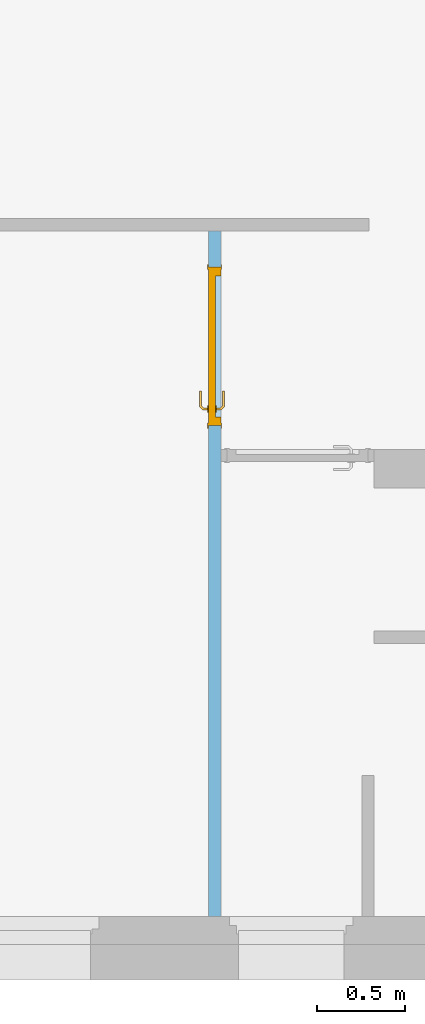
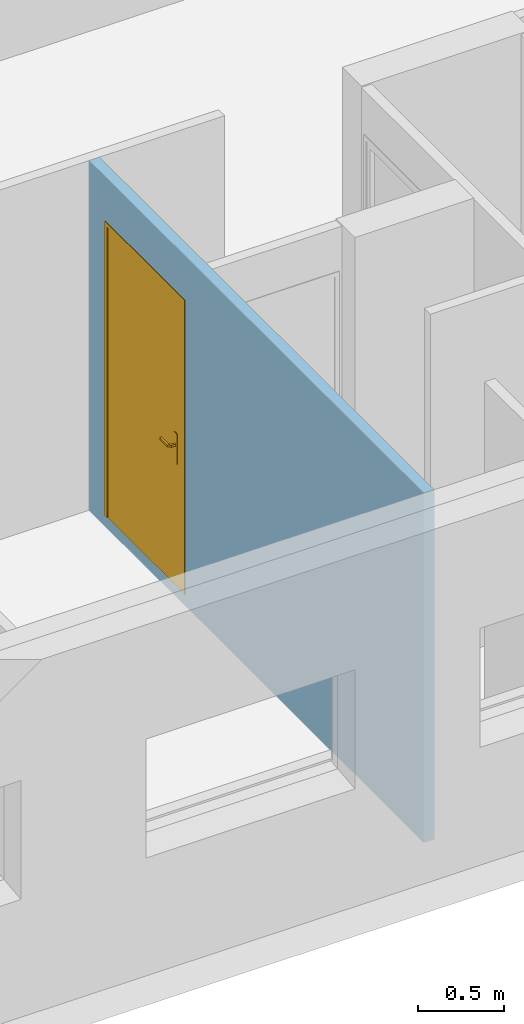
"""IFC2X3 building model written with IfcOpenShell, lengths in centimetres."""

from ifc_helpers import new_model, entity, si_unit, converted_unit, derived_unit, direction, frame, frame_2d, origin, place, context, subcontext, project, spatial, rectangle, extrude, faceted_brep, source, transform, mapped, material, material_list, layer, layer_set, layer_usage, type_object, type_shapes, element, fill, save


model = new_model("IFC2X3")

# Units and contexts
model_context = context("Model", 3, precision=0.001, world=origin(), true_north=direction((6.12303176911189e-17, 1.0)))
body_context = subcontext(model_context, "Body", "Model", "MODEL_VIEW")
ifc_project = project(units=[si_unit("LENGTHUNIT", "METRE", prefix="CENTI"), si_unit("AREAUNIT", "SQUARE_METRE"), si_unit("VOLUMEUNIT", "CUBIC_METRE"), converted_unit("PLANEANGLEUNIT", "DEGREE", entity("IfcRatioMeasure", 0.0174532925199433), si_unit("PLANEANGLEUNIT", "RADIAN"), dimensions=[0, 0, 0, 0, 0, 0, 0]), si_unit("MASSUNIT", "GRAM", prefix="KILO"), derived_unit("MASSDENSITYUNIT", [(si_unit("MASSUNIT", "GRAM", prefix="KILO"), 1), (si_unit("LENGTHUNIT", "METRE"), -3)]), derived_unit("MOMENTOFINERTIAUNIT", [(si_unit("LENGTHUNIT", "METRE"), 4)]), si_unit("TIMEUNIT", "SECOND"), si_unit("FREQUENCYUNIT", "HERTZ"), si_unit("THERMODYNAMICTEMPERATUREUNIT", "DEGREE_CELSIUS"), derived_unit("THERMALTRANSMITTANCEUNIT", [(si_unit("MASSUNIT", "GRAM", prefix="KILO"), 1), (si_unit("THERMODYNAMICTEMPERATUREUNIT", "KELVIN"), -1), (si_unit("TIMEUNIT", "SECOND"), -3)]), derived_unit("VOLUMETRICFLOWRATEUNIT", [(si_unit("LENGTHUNIT", "METRE"), 3), (si_unit("TIMEUNIT", "SECOND"), -1)]), si_unit("ELECTRICCURRENTUNIT", "AMPERE"), si_unit("ELECTRICVOLTAGEUNIT", "VOLT"), si_unit("POWERUNIT", "WATT"), si_unit("FORCEUNIT", "NEWTON", prefix="KILO"), si_unit("ILLUMINANCEUNIT", "LUX"), si_unit("LUMINOUSFLUXUNIT", "LUMEN"), si_unit("LUMINOUSINTENSITYUNIT", "CANDELA"), derived_unit("USERDEFINED", [(si_unit("MASSUNIT", "GRAM", prefix="KILO"), -1), (si_unit("LENGTHUNIT", "METRE"), -2), (si_unit("TIMEUNIT", "SECOND"), 3), (si_unit("LUMINOUSFLUXUNIT", "LUMEN"), 1)]), derived_unit("LINEARVELOCITYUNIT", [(si_unit("LENGTHUNIT", "METRE"), 1), (si_unit("TIMEUNIT", "SECOND"), -1)]), si_unit("PRESSUREUNIT", "PASCAL"), derived_unit("USERDEFINED", [(si_unit("LENGTHUNIT", "METRE"), -2), (si_unit("MASSUNIT", "GRAM", prefix="KILO"), 1), (si_unit("TIMEUNIT", "SECOND"), -2)]), derived_unit("LINEARFORCEUNIT", [(si_unit("MASSUNIT", "GRAM", prefix="KILO"), 1), (si_unit("LENGTHUNIT", "METRE"), 1), (si_unit("TIMEUNIT", "SECOND"), -2), (si_unit("LENGTHUNIT", "METRE"), -1)]), derived_unit("PLANARFORCEUNIT", [(si_unit("MASSUNIT", "GRAM", prefix="KILO"), 1), (si_unit("LENGTHUNIT", "METRE"), 1), (si_unit("TIMEUNIT", "SECOND"), -2), (si_unit("LENGTHUNIT", "METRE"), -2)])], contexts=[model_context])

# Site, building, storey
site_placement = place(None, origin())
site = spatial("IfcSite", under=ifc_project, at=site_placement, Name="Surface", CompositionType="ELEMENT")
building_placement = place(site_placement, origin())
building = spatial("IfcBuilding", under=site, at=building_placement, CompositionType="ELEMENT")
storey_1_placement = place(building_placement, frame((0.0, 0.0, -8.0)))
storey_1 = spatial("IfcBuildingStorey", under=building, at=storey_1_placement, Name="-0.08_Dessus plancher", CompositionType="ELEMENT", Elevation=-8.0)

# Wall, openings
ifc_material_1 = material(Name="Mur par défaut")
ifc_layer = layer(ifc_material_1, 7.0)
ifc_layer_set = layer_set([ifc_layer], Name="Mur de base:Cloison 7cm")
ifc_layer_usage = layer_usage(ifc_layer_set, "AXIS2", "NEGATIVE", 3.5)
wall_type = type_object("IfcWallType", Name="Mur de base:Cloison 7cm", PredefinedType="STANDARD", material=ifc_layer_set)
wall_placement = place(storey_1_placement, frame((-1165.67726031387, -123.007682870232, 0.0), z_axis=(0.0, 0.0, 1.0), x_axis=(0.0, 1.0, 0.0)))
wall = element("IfcWallStandardCase", 1, at=wall_placement, inside=storey_1, type_object=wall_type, material=ifc_layer_usage, Name="Mur de base:Cloison 7cm", ObjectType="Mur de base:Cloison 7cm", context=body_context, shape_type="SweptSolid", body=[
    extrude(rectangle(XDim=388.999999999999, YDim=7.00000000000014, at=frame_2d((194.5, -1.19904086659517e-14), x_axis=(-1.0, 0.0))), origin(), (0.0, 0.0, 1.0), 248.0),
])
opening_1_placement = place(wall_placement, frame((123.007682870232, -1165.67726031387, 8.0), z_axis=(0.0, 0.0, 1.0), x_axis=(0.0, -1.0, 0.0)))
element("IfcOpeningElement", 2, at=opening_1_placement, cuts=wall, Name="Mur de base:Cloison 7cm", ObjectType="Opening", context=body_context, shape_type="SweptSolid", body=[
    extrude(rectangle(XDim=207.5, YDim=90.0, at=frame_2d((1.4210854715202e-14, 0.0), x_axis=(0.0, 1.0))), frame((-1016.77726031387, 200.492317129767, 103.75), z_axis=(-1.0, 0.0, 0.0), x_axis=(0.0, -1.0, 0.0)), (0.0, 0.0, 1.0), 304.8),
])
opening_2_placement = place(wall_placement, frame((278.499999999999, -3.50000000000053, 8.0)))
opening_2 = element("IfcOpeningElement", 3, at=opening_2_placement, cuts=wall, Name="Int. Simple:PP (0.83m x 2.04m):1", ObjectType="Opening", context=body_context, shape_type="SweptSolid", body=[
    extrude(rectangle(XDim=207.5, YDim=90.0, at=frame_2d((103.75, 45.0), x_axis=(1.0, 0.0))), frame((0.0, 0.0, 0.0), z_axis=(0.0, 1.0, 0.0), x_axis=(0.0, 0.0, 1.0)), (0.0, 0.0, 1.0), 7.0),
])

# Storey
storey_2_placement = place(building_placement, origin())
storey_2 = spatial("IfcBuildingStorey", under=building, at=storey_2_placement, Name="1_Rez-de-chaussée", CompositionType="ELEMENT", Elevation=-7.93413063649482e-11)

# Door
ifc_material_2 = material(Name="Finition Peinture - Blanc satiné")
ifc_material_3 = material(Name="Bois - Panneau de porte")
ifc_material_4 = material(Name="Bois - Cadre de porte")
ifc_material_list_1 = material_list([ifc_material_2, ifc_material_3, ifc_material_4])
ifc_material_list_2 = material_list([ifc_material_2, ifc_material_4, ifc_material_3])
door_style = type_object("IfcDoorStyle", Name="Int. Simple:PP (0.83m x 2.04m)", ConstructionType="NOTDEFINED", OperationType="NOTDEFINED", ParameterTakesPrecedence=False, Sizeable=False, material=ifc_material_list_2)
shared_shape = source(origin(), body_context, "Body", "Brep", [
    faceted_brep([(89.5000000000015, -0.500000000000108, 87.0), (89.5000000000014, -0.500000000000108, 108.0), (88.5352761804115, -0.500000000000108, 108.399601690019), (87.5000000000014, -0.500000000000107, 108.535898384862), (86.4647238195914, -0.500000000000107, 108.399601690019), (85.5000000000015, -0.500000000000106, 108.0), (85.5000000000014, -0.500000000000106, 87.0), (86.4647238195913, -0.500000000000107, 86.6003983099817), (87.5000000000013, -0.500000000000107, 86.464101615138), (88.5352761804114, -0.500000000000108, 86.6003983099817), (89.5000000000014, 0.0, 108.0), (89.5000000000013, 0.0, 87.0), (88.5352761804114, 0.0, 86.6003983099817), (87.5000000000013, 0.0, 86.464101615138), (86.4647238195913, 0.0, 86.6003983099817), (85.5000000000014, 0.0, 87.0), (85.5000000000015, 0.0, 108.0), (86.4647238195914, 0.0, 108.399601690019), (87.5000000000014, 0.0, 108.535898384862), (88.5352761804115, 0.0, 108.399601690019)], [[[0, 1, 2, 3, 4, 5, 6, 7, 8, 9]], [[10, 11, 12, 13, 14, 15, 16, 17, 18, 19]], [[9, 12, 11, 0]], [[8, 13, 12, 9]], [[7, 14, 13, 8]], [[7, 6, 15, 14]], [[15, 6, 5, 16]], [[4, 17, 16, 5]], [[3, 18, 17, 4]], [[2, 19, 18, 3]], [[2, 1, 10, 19]], [[11, 10, 1, 0]]]),
    faceted_brep([(89.5000000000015, 4.0, 87.0), (89.5000000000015, 4.0, 108.0), (88.5352761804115, 4.0, 108.399601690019), (87.5000000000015, 4.0, 108.535898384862), (86.4647238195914, 4.0, 108.399601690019), (85.5000000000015, 4.0, 108.0), (85.5000000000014, 4.0, 87.0), (86.4647238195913, 4.0, 86.6003983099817), (87.5000000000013, 4.0, 86.464101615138), (88.5352761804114, 4.0, 86.6003983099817), (87.5000000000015, 4.49999999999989, 108.535898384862), (88.5352761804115, 4.49999999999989, 108.399601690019), (89.5000000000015, 4.49999999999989, 108.0), (89.5000000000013, 4.49999999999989, 87.0), (88.5352761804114, 4.49999999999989, 86.6003983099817), (87.5000000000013, 4.49999999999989, 86.464101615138), (86.4647238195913, 4.49999999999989, 86.6003983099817), (85.5000000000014, 4.49999999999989, 87.0), (85.5000000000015, 4.49999999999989, 108.0), (86.4647238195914, 4.49999999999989, 108.399601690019)], [[[0, 1, 2, 3, 4, 5, 6, 7, 8, 9]], [[10, 11, 12, 13, 14, 15, 16, 17, 18, 19]], [[4, 19, 18, 5]], [[3, 10, 19, 4]], [[2, 11, 10, 3]], [[2, 1, 12, 11]], [[13, 12, 1, 0]], [[9, 14, 13, 0]], [[8, 15, 14, 9]], [[7, 16, 15, 8]], [[7, 6, 17, 16]], [[17, 6, 5, 18]]]),
    faceted_brep([(87.2974701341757, -0.500000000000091, 100.778044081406), (87.7025298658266, -0.500000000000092, 100.778044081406), (88.1000000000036, -0.500000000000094, 100.699999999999), (88.1000000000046, -0.500000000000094, 99.2999999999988), (87.7025298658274, -0.500000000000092, 99.221955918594), (87.2974701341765, -0.500000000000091, 99.2219559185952), (86.8999999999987, -0.500000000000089, 99.3000000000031), (86.8999999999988, -0.500000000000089, 100.7), (87.7025298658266, -3.10045754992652, 100.778044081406), (88.1000000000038, -3.26509507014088, 100.7), (87.2974701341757, -2.93267631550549, 100.778044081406), (85.9298602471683, -4.30028620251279, 100.778044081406), (86.0976414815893, -4.70534593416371, 100.778044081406), (86.8999999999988, -2.76803879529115, 100.7), (86.8999999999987, -2.76803879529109, 99.3000000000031), (87.2974701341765, -2.93267631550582, 99.2219559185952), (87.7025298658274, -3.10045754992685, 99.221955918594), (86.0976414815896, -4.70534593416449, 99.221955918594), (85.9298602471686, -4.30028620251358, 99.2219559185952), (88.1000000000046, -3.26509507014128, 99.2999999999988), (86.2622790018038, -5.1028160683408, 100.7), (85.765222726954, -3.90281606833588, 100.7), (85.7652227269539, -3.90281606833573, 99.3000000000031), (86.262279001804, -5.10281606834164, 99.2999999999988), (77.4981359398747, -5.10281606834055, 100.7), (77.4981359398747, -4.70534593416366, 100.778044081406), (77.4981359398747, -4.30028620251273, 100.778044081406), (77.4981359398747, -3.90281606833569, 100.699999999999), (77.4981359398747, -3.90281606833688, 99.3000000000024), (77.4981359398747, -4.30028620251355, 99.2219559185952), (77.4981359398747, -4.70534593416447, 99.221955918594), (77.4981359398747, -5.10281606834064, 99.2999999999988), (81.713998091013, -4.5028160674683, 100.78786867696), (82.2692302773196, -5.1028160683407, 100.7), (81.6316793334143, -3.9028160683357, 100.7), (81.6316793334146, -3.9028160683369, 99.3000000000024), (81.7139981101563, -4.50281607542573, 99.2121313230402), (82.2692310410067, -5.10281606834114, 99.2999999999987)], [[[0, 1, 2, 3, 4, 5, 6, 7]], [[2, 1, 8, 9]], [[1, 0, 10, 11, 12, 8]], [[0, 7, 13, 10]], [[14, 13, 7, 6]], [[5, 15, 14, 6]], [[5, 4, 16, 17, 18, 15]], [[3, 19, 16, 4]], [[9, 19, 3, 2]], [[9, 8, 12, 20]], [[10, 13, 21, 11]], [[22, 21, 13, 14]], [[14, 15, 18, 22]], [[16, 19, 23, 17]], [[20, 23, 19, 9]], [[24, 25, 26, 27, 28, 29, 30, 31]], [[32, 25, 33]], [[33, 25, 24]], [[33, 20, 12]], [[11, 34, 32]], [[34, 11, 21]], [[27, 26, 34]], [[32, 26, 25]], [[32, 34, 26]], [[32, 33, 12]], [[11, 32, 12]], [[21, 22, 35, 28, 27, 34]], [[36, 29, 35]], [[30, 36, 37]], [[18, 35, 22]], [[29, 28, 35]], [[30, 37, 31]], [[37, 17, 23]], [[36, 17, 37]], [[36, 18, 17]], [[36, 35, 18]], [[29, 36, 30]], [[23, 20, 33, 24, 31, 37]]]),
    faceted_brep([(87.2974701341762, 4.49999999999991, 99.2219559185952), (87.7025298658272, 4.49999999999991, 99.221955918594), (88.1000000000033, 4.4999999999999, 99.2999999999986), (88.1000000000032, 4.4999999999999, 100.7), (87.7025298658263, 4.49999999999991, 100.778044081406), (87.2974701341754, 4.49999999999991, 100.778044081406), (86.8999999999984, 4.49999999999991, 100.7), (86.8999999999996, 4.49999999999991, 99.3000000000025), (86.8999999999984, 6.7485204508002, 100.7), (86.8999999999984, 6.74852045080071, 99.3000000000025), (87.2974701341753, 6.91315797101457, 100.778044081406), (87.7025298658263, 7.0809392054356, 100.778044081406), (86.0838906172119, 8.69957845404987, 100.778044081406), (85.9161093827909, 8.29451872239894, 100.778044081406), (88.1000000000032, 7.24557672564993, 100.7), (88.1000000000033, 7.24557672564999, 99.2999999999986), (87.7025298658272, 7.08093920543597, 99.221955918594), (87.2974701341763, 6.91315797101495, 99.2219559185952), (85.9161093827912, 8.29451872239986, 99.2219559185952), (86.0838906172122, 8.69957845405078, 99.221955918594), (85.7514718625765, 7.89704858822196, 100.7), (85.7514718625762, 7.89704858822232, 99.3000000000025), (86.2485281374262, 9.09704858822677, 100.7), (86.2485281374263, 9.09704858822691, 99.2999999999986), (77.495421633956, 8.29451872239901, 100.778044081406), (77.495421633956, 8.69957845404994, 100.778044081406), (77.495421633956, 9.09704858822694, 100.7), (77.495421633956, 9.09704858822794, 99.2999999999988), (77.495421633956, 8.6995784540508, 99.221955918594), (77.495421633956, 8.29451872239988, 99.2219559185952), (77.495421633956, 7.89704858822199, 99.3000000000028), (77.495421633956, 7.89704858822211, 100.7), (81.6234467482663, 7.89704858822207, 100.7), (81.6234479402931, 7.89704858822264, 99.3000000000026), (81.7057655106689, 8.49704858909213, 100.78786867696), (82.2554794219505, 9.09704858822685, 100.7), (82.2554795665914, 9.09704858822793, 99.2999999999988), (81.7057654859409, 8.49704858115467, 99.2121313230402)], [[[0, 1, 2, 3, 4, 5, 6, 7]], [[8, 9, 7, 6]], [[5, 10, 8, 6]], [[5, 4, 11, 12, 13, 10]], [[3, 14, 11, 4]], [[14, 3, 2, 15]], [[2, 1, 16, 15]], [[1, 0, 17, 18, 19, 16]], [[0, 7, 9, 17]], [[20, 21, 9, 8]], [[8, 10, 13, 20]], [[14, 22, 12, 11]], [[23, 22, 14, 15]], [[15, 16, 19, 23]], [[17, 9, 21, 18]], [[24, 25, 26, 27, 28, 29, 30, 31]], [[21, 20, 32, 31, 30, 33]], [[34, 24, 32]], [[25, 34, 35]], [[13, 32, 20]], [[24, 31, 32]], [[25, 35, 26]], [[35, 12, 22]], [[34, 12, 35]], [[34, 13, 12]], [[34, 32, 13]], [[24, 34, 25]], [[22, 23, 36, 27, 26, 35]], [[37, 28, 36]], [[36, 28, 27]], [[36, 23, 19]], [[18, 33, 37]], [[33, 18, 21]], [[30, 29, 33]], [[37, 29, 28]], [[37, 33, 29]], [[37, 36, 19]], [[18, 37, 19]]]),
    faceted_brep([(93.5000000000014, 4.0, 204.0), (93.5000000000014, 4.0, 0.0), (10.5000000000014, 4.0, 0.0), (10.5000000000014, 4.0, 204.0), (93.5000000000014, 0.0, 204.0), (10.5000000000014, 0.0, 204.0), (10.5000000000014, 0.0, 0.0), (93.5000000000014, 0.0, 0.0)], [[[0, 1, 2, 3]], [[4, 5, 6, 7]], [[3, 5, 4, 0]], [[2, 6, 5, 3]], [[1, 7, 6, 2]], [[0, 4, 7, 1]]]),
    faceted_brep([(97.0, 0.0, 0.0), (93.5000000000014, 0.0, 0.0), (93.5000000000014, 4.0, 0.0), (92.0, 4.0, 0.0), (92.0, 7.0, 0.0), (97.0, 7.0, 0.0), (97.0, 7.0, 207.500000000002), (97.0, 0.0, 207.500000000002), (92.0, 7.0, 202.5), (12.0, 7.0, 202.5), (12.0, 7.0, 0.0), (7.0, 7.0, 0.0), (7.0, 7.0, 207.500000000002), (92.0, 4.0, 202.5), (93.5000000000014, 4.0, 204.0), (10.5000000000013, 4.0, 204.0), (10.5000000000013, 4.0, 0.0), (12.0, 4.0, 0.0), (12.0, 4.0, 202.5), (93.5000000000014, 0.0, 204.0), (7.0, 0.0, 207.500000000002), (7.0, 0.0, 0.0), (10.5000000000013, 0.0, 0.0), (10.5000000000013, 0.0, 204.0)], [[[0, 1, 2, 3, 4, 5]], [[5, 6, 7, 0]], [[4, 8, 9, 10, 11, 12, 6, 5]], [[3, 13, 8, 4]], [[2, 14, 15, 16, 17, 18, 13, 3]], [[1, 19, 14, 2]], [[0, 7, 20, 21, 22, 23, 19, 1]], [[12, 11, 21, 20]], [[21, 11, 10, 17, 16, 22]], [[18, 17, 10, 9]], [[23, 22, 16, 15]], [[6, 12, 20, 7]], [[13, 18, 9, 8]], [[19, 23, 15, 14]]]),
    faceted_brep([(95.5000000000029, 7.0, 0.0), (95.5000000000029, 7.49999999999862, 0.0), (98.5000000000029, 7.49999999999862, 0.0), (98.5000000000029, 7.0, 0.0), (98.5000000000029, 7.0, 209.0), (5.50000000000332, 7.0, 209.0), (5.50000000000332, 7.0, 0.0), (8.50000000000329, 7.0, 0.0), (8.50000000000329, 7.0, 206.0), (95.5000000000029, 7.0, 206.0), (98.5000000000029, 7.49999999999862, 209.0), (95.5000000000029, 7.49999999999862, 206.0), (8.50000000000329, 7.49999999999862, 206.0), (8.50000000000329, 7.49999999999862, 0.0), (5.50000000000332, 7.49999999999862, 0.0), (5.50000000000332, 7.49999999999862, 209.0)], [[[0, 1, 2, 3]], [[3, 4, 5, 6, 7, 8, 9, 0]], [[2, 10, 4, 3]], [[1, 11, 12, 13, 14, 15, 10, 2]], [[0, 9, 11, 1]], [[7, 6, 14, 13]], [[8, 7, 13, 12]], [[15, 14, 6, 5]], [[10, 15, 5, 4]], [[9, 8, 12, 11]]]),
    faceted_brep([(98.5000000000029, -0.5, 0.0), (98.5000000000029, -0.5, 209.0), (5.50000000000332, -0.5, 209.0), (5.50000000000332, -0.5, 0.0), (8.50000000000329, -0.5, 0.0), (8.50000000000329, -0.5, 206.0), (95.5000000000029, -0.5, 206.0), (95.5000000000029, -0.5, 0.0), (98.5000000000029, 0.0, 0.0), (98.5000000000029, 0.0, 209.0), (95.5000000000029, 0.0, 0.0), (95.5000000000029, 0.0, 206.0), (8.50000000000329, 0.0, 206.0), (8.50000000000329, 0.0, 0.0), (5.50000000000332, 0.0, 0.0), (5.50000000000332, 0.0, 209.0)], [[[0, 1, 2, 3, 4, 5, 6, 7]], [[8, 9, 1, 0]], [[10, 11, 12, 13, 14, 15, 9, 8]], [[7, 6, 11, 10]], [[5, 4, 13, 12]], [[15, 14, 3, 2]], [[9, 15, 2, 1]], [[6, 5, 12, 11]], [[4, 3, 14, 13]], [[7, 10, 8, 0]]]),
])
type_shapes(door_style, [shared_shape])
door_placement = place(opening_2_placement, frame((97.0, 7.0, 0.0), z_axis=(0.0, 0.0, 1.0), x_axis=(-1.0, 0.0, 0.0)))
door = element("IfcDoor", 4, at=door_placement, inside=storey_2, type_object=door_style, material=ifc_material_list_1, Name="Int. Simple:PP (0.83m x 2.04m)", ObjectType="Int. Simple:PP (0.83m x 2.04m)", OverallHeight=207.5, OverallWidth=90.0, context=body_context, shape_type="MappedRepresentation", body=[
    mapped(shared_shape, transform((0.0, 0.0, 0.0), scale=1.0)),
])

fill(opening_2, door)

save(model, "model.ifc")
